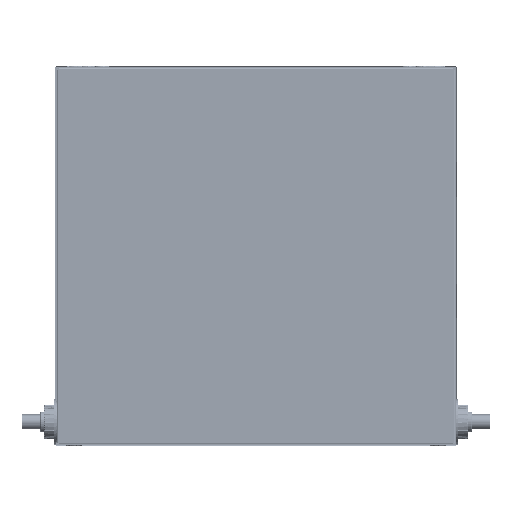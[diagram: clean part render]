
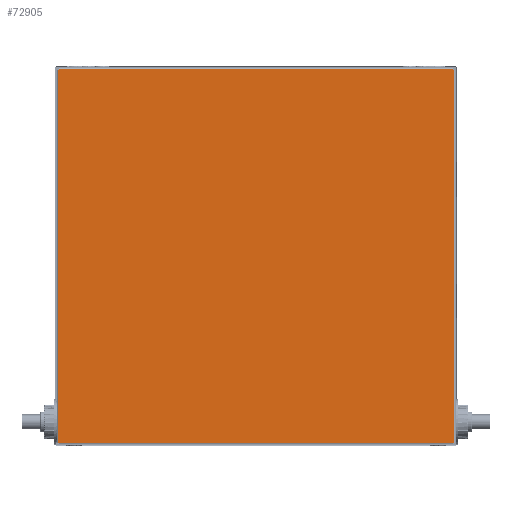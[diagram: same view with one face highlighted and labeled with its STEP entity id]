
A CAD part, front view. The second image highlights one B-rep face of the part: STEP entity #72905.
In plain terms, the highlighted planar face has unit normal (0, 0, 1) by its records, which use the part's own axes.
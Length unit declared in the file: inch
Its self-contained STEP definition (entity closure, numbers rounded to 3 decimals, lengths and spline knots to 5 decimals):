
#59 = FACE_OUTER_BOUND ( 'NONE', #18348, .T. ) ;
#896 = CARTESIAN_POINT ( 'NONE',  ( -9.80294, -15.02406, 0. ) ) ;
#1925 = CARTESIAN_POINT ( 'NONE',  ( 18.31615, -15.05236, 0. ) ) ;
#2301 = VECTOR ( 'NONE', #126191, 39.37008 ) ;
#4539 = VECTOR ( 'NONE', #111789, 39.37008 ) ;
#5930 = CARTESIAN_POINT ( 'NONE',  ( 18.31615, -15.02406, 0. ) ) ;
#5978 = CARTESIAN_POINT ( 'NONE',  ( 18.34445, 10.6295, 0. ) ) ;
#10453 = CARTESIAN_POINT ( 'NONE',  ( 18.31615, 10.6295, 0. ) ) ;
#10989 = DIRECTION ( 'NONE',  ( -1., 0., 0. ) ) ;
#12781 = EDGE_CURVE ( 'NONE', #113528, #28133, #69992, .T. ) ;
#13050 = VERTEX_POINT ( 'NONE', #77924 ) ;
#13478 = CARTESIAN_POINT ( 'NONE',  ( 18.31615, 11.59503, 0. ) ) ;
#13514 = ORIENTED_EDGE ( 'NONE', *, *, #55700, .F. ) ;
#14717 = CARTESIAN_POINT ( 'NONE',  ( -8.83741, -15.02406, 0. ) ) ;
#17022 = VERTEX_POINT ( 'NONE', #32051 ) ;
#18140 = CARTESIAN_POINT ( 'NONE',  ( -8.83741, 11.59503, 0. ) ) ;
#18348 = EDGE_LOOP ( 'NONE', ( #33889, #68112, #121956, #38657, #78918, #67048, #36436, #13514, #91772, #54761, #39984, #40205 ) ) ;
#19895 = VECTOR ( 'NONE', #121326, 39.37008 ) ;
#20727 = CARTESIAN_POINT ( 'NONE',  ( -9.80294, 10.6295, 0. ) ) ;
#21079 = CARTESIAN_POINT ( 'NONE',  ( 18.34445, 11.59503, 0. ) ) ;
#23541 = DIRECTION ( 'NONE',  ( -1., 0., 0. ) ) ;
#24823 = CARTESIAN_POINT ( 'NONE',  ( -8.83741, 10.65779, 0. ) ) ;
#24977 = VERTEX_POINT ( 'NONE', #84006 ) ;
#27849 = LINE ( 'NONE', #53461, #128311 ) ;
#28133 = VERTEX_POINT ( 'NONE', #65946 ) ;
#30238 = CARTESIAN_POINT ( 'NONE',  ( -8.83741, -15.05236, 0. ) ) ;
#31161 = DIRECTION ( 'NONE',  ( 0., -1., 0. ) ) ;
#32051 = CARTESIAN_POINT ( 'NONE',  ( 18.34445, -15.02406, 0. ) ) ;
#32342 = CARTESIAN_POINT ( 'NONE',  ( 18.31615, -15.02406, 0. ) ) ;
#32723 = VECTOR ( 'NONE', #72118, 39.37008 ) ;
#33714 = CARTESIAN_POINT ( 'NONE',  ( -8.8657, 11.59503, 0. ) ) ;
#33889 = ORIENTED_EDGE ( 'NONE', *, *, #127446, .F. ) ;
#36436 = ORIENTED_EDGE ( 'NONE', *, *, #37889, .F. ) ;
#37509 = CARTESIAN_POINT ( 'NONE',  ( -8.83741, 10.6295, 0. ) ) ;
#37889 = EDGE_CURVE ( 'NONE', #13050, #112327, #103130, .T. ) ;
#38657 = ORIENTED_EDGE ( 'NONE', *, *, #110980, .F. ) ;
#39973 = EDGE_CURVE ( 'NONE', #112327, #83933, #27849, .T. ) ;
#39984 = ORIENTED_EDGE ( 'NONE', *, *, #12781, .F. ) ;
#40205 = ORIENTED_EDGE ( 'NONE', *, *, #45163, .F. ) ;
#40767 = EDGE_CURVE ( 'NONE', #107378, #114376, #47908, .T. ) ;
#41482 = CARTESIAN_POINT ( 'NONE',  ( -8.83741, -15.02406, 0. ) ) ;
#42428 = VECTOR ( 'NONE', #31161, 39.37008 ) ;
#45163 = EDGE_CURVE ( 'NONE', #99730, #113528, #71307, .T. ) ;
#46365 = VECTOR ( 'NONE', #79935, 39.37008 ) ;
#47908 = LINE ( 'NONE', #18140, #98197 ) ;
#52209 = LINE ( 'NONE', #41482, #105648 ) ;
#52910 = PLANE ( 'NONE',  #115265 ) ;
#53461 = CARTESIAN_POINT ( 'NONE',  ( 18.31615, 10.6295, 0. ) ) ;
#54761 = ORIENTED_EDGE ( 'NONE', *, *, #118870, .F. ) ;
#55700 = EDGE_CURVE ( 'NONE', #114376, #13050, #103339, .T. ) ;
#57849 = LINE ( 'NONE', #32342, #4539 ) ;
#63483 = DIRECTION ( 'NONE',  ( 1., 0., 0. ) ) ;
#63897 = DIRECTION ( 'NONE',  ( 0., 1., 0. ) ) ;
#65946 = CARTESIAN_POINT ( 'NONE',  ( -8.8657, 10.6295, 0. ) ) ;
#67048 = ORIENTED_EDGE ( 'NONE', *, *, #39973, .F. ) ;
#68112 = ORIENTED_EDGE ( 'NONE', *, *, #90351, .F. ) ;
#68991 = EDGE_CURVE ( 'NONE', #83933, #17022, #122555, .T. ) ;
#69992 = LINE ( 'NONE', #33714, #93567 ) ;
#70133 = CARTESIAN_POINT ( 'NONE',  ( 18.31615, -15.02406, 0. ) ) ;
#71307 = LINE ( 'NONE', #896, #124778 ) ;
#72118 = DIRECTION ( 'NONE',  ( -1., 0., 0. ) ) ;
#72905 = ADVANCED_FACE ( 'NONE', ( #59 ), #52910, .F. ) ;
#76835 = VERTEX_POINT ( 'NONE', #70133 ) ;
#76890 = VERTEX_POINT ( 'NONE', #30238 ) ;
#77924 = CARTESIAN_POINT ( 'NONE',  ( 18.31615, 10.65779, 0. ) ) ;
#78918 = ORIENTED_EDGE ( 'NONE', *, *, #68991, .F. ) ;
#79935 = DIRECTION ( 'NONE',  ( 1., 0., 0. ) ) ;
#83660 = DIRECTION ( 'NONE',  ( 0., 0., -1. ) ) ;
#83933 = VERTEX_POINT ( 'NONE', #5978 ) ;
#84006 = CARTESIAN_POINT ( 'NONE',  ( 18.31615, -15.05236, 0. ) ) ;
#85565 = CARTESIAN_POINT ( 'NONE',  ( -8.8657, -15.02406, 0. ) ) ;
#88314 = DIRECTION ( 'NONE',  ( 0., 1., 0. ) ) ;
#90351 = EDGE_CURVE ( 'NONE', #24977, #76890, #109670, .T. ) ;
#91772 = ORIENTED_EDGE ( 'NONE', *, *, #40767, .F. ) ;
#93567 = VECTOR ( 'NONE', #63897, 39.37008 ) ;
#98197 = VECTOR ( 'NONE', #88314, 39.37008 ) ;
#98681 = CARTESIAN_POINT ( 'NONE',  ( 18.31615, 10.65779, 0. ) ) ;
#99730 = VERTEX_POINT ( 'NONE', #14717 ) ;
#101086 = CARTESIAN_POINT ( 'NONE',  ( 18.31615, 11.59503, 0. ) ) ;
#101332 = EDGE_CURVE ( 'NONE', #76835, #24977, #109126, .T. ) ;
#103130 = LINE ( 'NONE', #101086, #19895 ) ;
#103339 = LINE ( 'NONE', #98681, #126887 ) ;
#105648 = VECTOR ( 'NONE', #111718, 39.37008 ) ;
#107378 = VERTEX_POINT ( 'NONE', #37509 ) ;
#108804 = DIRECTION ( 'NONE',  ( 1., 0., 0. ) ) ;
#109126 = LINE ( 'NONE', #5930, #2301 ) ;
#109670 = LINE ( 'NONE', #1925, #32723 ) ;
#110980 = EDGE_CURVE ( 'NONE', #17022, #76835, #57849, .T. ) ;
#111718 = DIRECTION ( 'NONE',  ( 0., 1., 0. ) ) ;
#111789 = DIRECTION ( 'NONE',  ( -1., 0., 0. ) ) ;
#112327 = VERTEX_POINT ( 'NONE', #10453 ) ;
#113528 = VERTEX_POINT ( 'NONE', #85565 ) ;
#114376 = VERTEX_POINT ( 'NONE', #24823 ) ;
#115265 = AXIS2_PLACEMENT_3D ( 'NONE', #13478, #83660, #23541 ) ;
#118870 = EDGE_CURVE ( 'NONE', #28133, #107378, #126523, .T. ) ;
#121326 = DIRECTION ( 'NONE',  ( 0., -1., 0. ) ) ;
#121956 = ORIENTED_EDGE ( 'NONE', *, *, #101332, .F. ) ;
#122555 = LINE ( 'NONE', #21079, #42428 ) ;
#124778 = VECTOR ( 'NONE', #10989, 39.37008 ) ;
#126191 = DIRECTION ( 'NONE',  ( 0., -1., 0. ) ) ;
#126523 = LINE ( 'NONE', #20727, #46365 ) ;
#126887 = VECTOR ( 'NONE', #108804, 39.37008 ) ;
#127446 = EDGE_CURVE ( 'NONE', #76890, #99730, #52209, .T. ) ;
#128311 = VECTOR ( 'NONE', #63483, 39.37008 ) ;
